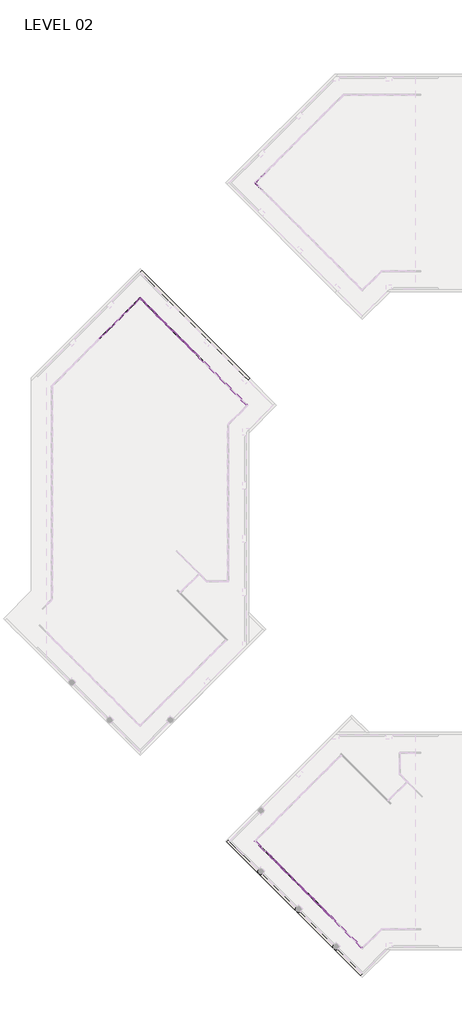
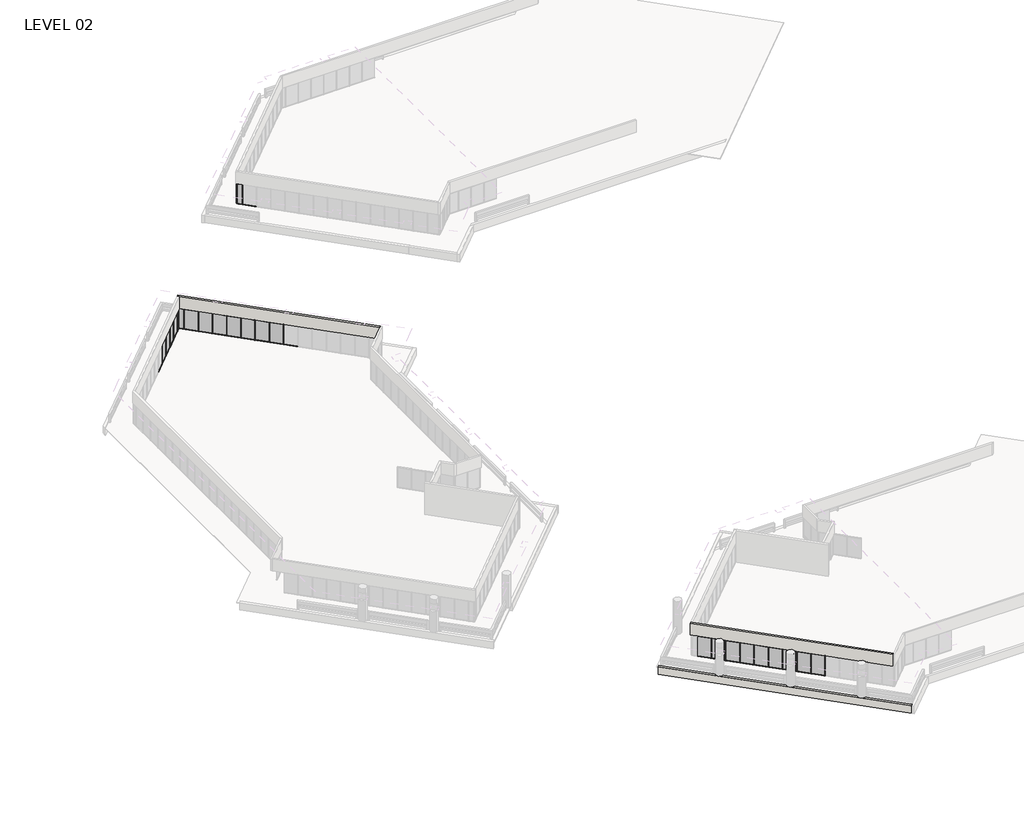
# One storey, part 6 of 19: 81 members, 24 plates, 4 walls.
"""IFC4 building model written with IfcOpenShell, lengths in millimetres."""

from ifc_helpers import new_model, si_unit, frame, origin, place, context, project, spatial, polyline, outline, extrude, faceted_brep, transform, mapped, element, save
from components import member_5247f267, member_79e7b9d8, member_b8d22739, member_e44af9ab, member_800970d4, member_c23f844a, member_57f2eb73, plate_67294edd, plate_46a4c48d, plate_4e8ae714, plate_50b9cd61, plate_048e4634, plate_87d7c655

model = new_model("IFC4")

# Units and contexts
model_context = context("Model", 3, world=origin())
ifc_project = project(units=[si_unit("LENGTHUNIT", "METRE", prefix="MILLI")], contexts=[model_context])

# Site, building, storey
site = spatial("IfcSite", under=ifc_project)
building = spatial("IfcBuilding", under=site)
storey = spatial("IfcBuildingStorey", under=building, Name="LEVEL 02", Elevation=4140.2)

# Members
placement = place(None, origin())
member_shape = member_5247f267(model_context)
element("IfcMember", 1, ObjectType="Rectangular Mullion : 2\" x 4.5\" rectangular", at=placement, inside=storey, context=model_context, shape_type="MappedRepresentation", body=[
    mapped(member_shape, transform((7201.9867365, 2545.9406331, 4140.2), x_axis=(0.0, 0.0, -1.0), y_axis=(0.7071067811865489, 0.7071067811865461, 0.0), z_axis=(0.7071067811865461, -0.7071067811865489, 0.0))),
])
element("IfcMember", 2, ObjectType="Rectangular Mullion : 2\" x 4.5\" rectangular", at=placement, inside=storey, context=model_context, shape_type="MappedRepresentation", body=[
    mapped(member_shape, transform((1814.0117365, 7933.9156331, 4140.2), x_axis=(0.0, 0.0, -1.0), y_axis=(0.7071067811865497, 0.7071067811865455, 0.0), z_axis=(0.7071067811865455, -0.7071067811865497, 0.0))),
])
element("IfcMember", 3, ObjectType="Rectangular Mullion : 2\" x 4.5\" rectangular", at=placement, inside=storey, context=model_context, shape_type="MappedRepresentation", body=[
    mapped(member_shape, transform((2891.6067365, 6856.3206331, 4140.2), x_axis=(0.0, 0.0, -1.0), y_axis=(0.707106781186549, 0.7071067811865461, 0.0), z_axis=(0.7071067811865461, -0.707106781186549, 0.0))),
])
element("IfcMember", 4, ObjectType="Rectangular Mullion : 2\" x 4.5\" rectangular", at=placement, inside=storey, context=model_context, shape_type="MappedRepresentation", body=[
    mapped(member_shape, transform((3969.2017365, 5778.7256331, 4140.2), x_axis=(0.0, 0.0, -1.0), y_axis=(0.7071067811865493, 0.7071067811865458, 0.0), z_axis=(0.7071067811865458, -0.7071067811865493, 0.0))),
])
element("IfcMember", 5, ObjectType="Rectangular Mullion : 2\" x 4.5\" rectangular", at=placement, inside=storey, context=model_context, shape_type="MappedRepresentation", body=[
    mapped(member_shape, transform((5046.7967365, 4701.1306331, 4140.2), x_axis=(0.0, 0.0, -1.0), y_axis=(0.707106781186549, 0.7071067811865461, 0.0), z_axis=(0.7071067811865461, -0.707106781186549, 0.0))),
])
element("IfcMember", 6, ObjectType="Rectangular Mullion : 2\" x 4.5\" rectangular", at=placement, inside=storey, context=model_context, shape_type="MappedRepresentation", body=[
    mapped(member_shape, transform((6124.3917365, 3623.5356331, 4140.2), x_axis=(0.0, 0.0, -1.0), y_axis=(0.7071067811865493, 0.7071067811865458, 0.0), z_axis=(0.7071067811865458, -0.7071067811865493, 0.0))),
])
element("IfcMember", 7, ObjectType="Rectangular Mullion : 2\" x 4.5\" rectangular", at=placement, inside=storey, context=model_context, shape_type="MappedRepresentation", body=[
    mapped(member_shape, transform((736.3810019, 9011.5463676, 4140.2), x_axis=(0.0, 0.0, -1.0), y_axis=(0.7071067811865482, 0.7071067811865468, 0.0), z_axis=(0.7071067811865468, -0.7071067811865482, 0.0))),
])
element("IfcMember", 8, ObjectType="Rectangular Mullion : 2\" x 4.5\" rectangular", at=placement, inside=storey, context=model_context, shape_type="MappedRepresentation", body=[
    mapped(member_shape, transform((-305.3287081, 104101.0755104, 4140.2), x_axis=(0.0, 0.0, -1.0), y_axis=(-0.7071067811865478, -0.7071067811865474, 0.0), z_axis=(-0.7071067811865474, 0.7071067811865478, 0.0))),
])
element("IfcMember", 9, ObjectType="Rectangular Mullion : 2\" x 4.5\" rectangular", at=placement, inside=storey, context=model_context, shape_type="MappedRepresentation", body=[
    mapped(member_shape, transform((1849.9327609, 7897.9946086, 6731.0), x_axis=(0.0, 0.0, 1.0), y_axis=(0.707106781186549, 0.7071067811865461, 0.0), z_axis=(-0.7071067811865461, 0.707106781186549, 0.0))),
])
element("IfcMember", 10, ObjectType="Rectangular Mullion : 2\" x 4.5\" rectangular", at=placement, inside=storey, context=model_context, shape_type="MappedRepresentation", body=[
    mapped(member_shape, transform((2927.5277609, 6820.3996086, 6731.0), x_axis=(0.0, 0.0, 1.0), y_axis=(0.7071067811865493, 0.7071067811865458, 0.0), z_axis=(-0.7071067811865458, 0.7071067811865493, 0.0))),
])
element("IfcMember", 11, ObjectType="Rectangular Mullion : 2\" x 4.5\" rectangular", at=placement, inside=storey, context=model_context, shape_type="MappedRepresentation", body=[
    mapped(member_shape, transform((4005.1227609, 5742.8046086, 6731.0), x_axis=(0.0, 0.0, 1.0), y_axis=(0.707106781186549, 0.7071067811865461, 0.0), z_axis=(-0.7071067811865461, 0.707106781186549, 0.0))),
])
element("IfcMember", 12, ObjectType="Rectangular Mullion : 2\" x 4.5\" rectangular", at=placement, inside=storey, context=model_context, shape_type="MappedRepresentation", body=[
    mapped(member_shape, transform((5082.7177609, 4665.2096086, 6731.0), x_axis=(0.0, 0.0, 1.0), y_axis=(0.7071067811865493, 0.7071067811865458, 0.0), z_axis=(-0.7071067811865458, 0.7071067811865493, 0.0))),
])
element("IfcMember", 13, ObjectType="Rectangular Mullion : 2\" x 4.5\" rectangular", at=placement, inside=storey, context=model_context, shape_type="MappedRepresentation", body=[
    mapped(member_shape, transform((6160.3127609, 3587.6146086, 6731.0), x_axis=(0.0, 0.0, 1.0), y_axis=(0.7071067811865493, 0.7071067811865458, 0.0), z_axis=(-0.7071067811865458, 0.7071067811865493, 0.0))),
])
element("IfcMember", 14, ObjectType="Rectangular Mullion : 2\" x 4.5\" rectangular", at=placement, inside=storey, context=model_context, shape_type="MappedRepresentation", body=[
    mapped(member_shape, transform((772.3020264, 8975.6253431, 6731.0), x_axis=(0.0, 0.0, 1.0), y_axis=(0.707106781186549, 0.7071067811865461, 0.0), z_axis=(-0.7071067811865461, 0.707106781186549, 0.0))),
])
element("IfcMember", 15, ObjectType="Rectangular Mullion : 2\" x 4.5\" rectangular", at=placement, inside=storey, context=model_context, shape_type="MappedRepresentation", body=[
    mapped(member_shape, transform((-305.5073808, 104982.5004268, 6731.0), x_axis=(0.0, 0.0, 1.0), y_axis=(-0.707106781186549, 0.7071067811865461, 0.0), z_axis=(-0.7071067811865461, -0.707106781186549, 0.0))),
])
member_2_shape = member_79e7b9d8(model_context)
element("IfcMember", 16, ObjectType="Rectangular Mullion : 2\" x 4.5\" rectangular", at=placement, inside=storey, context=model_context, shape_type="MappedRepresentation", body=[
    mapped(member_2_shape, transform((-710.2094781, 104577.7983294, 6731.0), x_axis=(0.0, 0.0, 1.0), y_axis=(-0.7071067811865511, 0.7071067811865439, 0.0), z_axis=(-0.7071067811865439, -0.7071067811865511, 0.0))),
])
element("IfcMember", 17, ObjectType="Rectangular Mullion : 2\" x 4.5\" rectangular", at=placement, inside=storey, context=model_context, shape_type="MappedRepresentation", body=[
    mapped(member_2_shape, transform((-341.4284052, 104946.5794023, 4140.2), x_axis=(0.0, 0.0, -1.0), y_axis=(-0.7071067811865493, 0.7071067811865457, 0.0), z_axis=(0.7071067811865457, 0.7071067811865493, 0.0))),
])
member_3_shape = member_b8d22739(model_context)
element("IfcMember", 18, ObjectType="Rectangular Mullion : 2\" x 4.5\" rectangular", at=placement, inside=storey, context=model_context, shape_type="MappedRepresentation", body=[
    mapped(member_3_shape, transform((-710.2094781, 104505.9562804, 4140.2), x_axis=(0.0, 0.0, -1.0), y_axis=(-0.7071067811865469, -0.7071067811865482, 0.0), z_axis=(-0.7071067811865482, 0.7071067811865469, 0.0))),
])
element("IfcMember", 19, ObjectType="Rectangular Mullion : 2\" x 4.5\" rectangular", at=placement, inside=storey, context=model_context, shape_type="MappedRepresentation", body=[
    mapped(member_3_shape, transform((-341.2497326, 104136.9965349, 6731.0), x_axis=(0.0, 0.0, 1.0), y_axis=(-0.7071067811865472, -0.7071067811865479, 0.0), z_axis=(0.7071067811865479, -0.7071067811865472, 0.0))),
])
member_4_shape = member_e44af9ab(model_context)
element("IfcMember", 20, ObjectType="Rectangular Mullion : 2\" x 4.5\" rectangular", at=placement, inside=storey, context=model_context, shape_type="MappedRepresentation", body=[
    mapped(member_4_shape, transform((9363.2340683, 384.6933012, 4140.2), x_axis=(-0.7071067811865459, 0.7071067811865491, 0.0), y_axis=(0.7071067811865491, 0.7071067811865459, 0.0), z_axis=(0.0, 0.0, -1.0))),
])
element("IfcMember", 21, ObjectType="Rectangular Mullion : 2\" x 4.5\" rectangular", at=placement, inside=storey, context=model_context, shape_type="MappedRepresentation", body=[
    mapped(member_4_shape, transform((8291.5906585, 1456.336711, 4140.2), x_axis=(-0.7071067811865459, 0.7071067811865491, 0.0), y_axis=(0.7071067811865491, 0.7071067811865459, 0.0), z_axis=(0.0, 0.0, -1.0))),
])
element("IfcMember", 22, ObjectType="Rectangular Mullion : 2\" x 4.5\" rectangular", at=placement, inside=storey, context=model_context, shape_type="MappedRepresentation", body=[
    mapped(member_4_shape, transform((7219.9472487, 2527.9801208, 4140.2), x_axis=(-0.7071067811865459, 0.7071067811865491, 0.0), y_axis=(0.7071067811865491, 0.7071067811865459, 0.0), z_axis=(0.0, 0.0, -1.0))),
])
element("IfcMember", 23, ObjectType="Rectangular Mullion : 2\" x 4.5\" rectangular", at=placement, inside=storey, context=model_context, shape_type="MappedRepresentation", body=[
    mapped(member_4_shape, transform((1831.9722487, 7915.9551208, 4140.2), x_axis=(-0.7071067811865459, 0.7071067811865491, 0.0), y_axis=(0.7071067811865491, 0.7071067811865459, 0.0), z_axis=(0.0, 0.0, -1.0))),
])
element("IfcMember", 24, ObjectType="Rectangular Mullion : 2\" x 4.5\" rectangular", at=placement, inside=storey, context=model_context, shape_type="MappedRepresentation", body=[
    mapped(member_4_shape, transform((2909.5672487, 6838.3601208, 4140.2), x_axis=(-0.7071067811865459, 0.7071067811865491, 0.0), y_axis=(0.7071067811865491, 0.7071067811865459, 0.0), z_axis=(0.0, 0.0, -1.0))),
])
element("IfcMember", 25, ObjectType="Rectangular Mullion : 2\" x 4.5\" rectangular", at=placement, inside=storey, context=model_context, shape_type="MappedRepresentation", body=[
    mapped(member_4_shape, transform((3987.1622487, 5760.7651208, 4140.2), x_axis=(-0.7071067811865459, 0.7071067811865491, 0.0), y_axis=(0.7071067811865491, 0.7071067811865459, 0.0), z_axis=(0.0, 0.0, -1.0))),
])
element("IfcMember", 26, ObjectType="Rectangular Mullion : 2\" x 4.5\" rectangular", at=placement, inside=storey, context=model_context, shape_type="MappedRepresentation", body=[
    mapped(member_4_shape, transform((5064.7572487, 4683.1701208, 4140.2), x_axis=(-0.7071067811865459, 0.7071067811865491, 0.0), y_axis=(0.7071067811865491, 0.7071067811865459, 0.0), z_axis=(0.0, 0.0, -1.0))),
])
element("IfcMember", 27, ObjectType="Rectangular Mullion : 2\" x 4.5\" rectangular", at=placement, inside=storey, context=model_context, shape_type="MappedRepresentation", body=[
    mapped(member_4_shape, transform((6142.3522487, 3605.5751208, 4140.2), x_axis=(-0.7071067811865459, 0.7071067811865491, 0.0), y_axis=(0.7071067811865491, 0.7071067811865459, 0.0), z_axis=(0.0, 0.0, -1.0))),
])
element("IfcMember", 28, ObjectType="Rectangular Mullion : 2\" x 4.5\" rectangular", at=placement, inside=storey, context=model_context, shape_type="MappedRepresentation", body=[
    mapped(member_4_shape, transform((754.3415142, 8993.5858553, 4140.2), x_axis=(-0.7071067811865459, 0.7071067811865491, 0.0), y_axis=(0.7071067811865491, 0.7071067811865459, 0.0), z_axis=(0.0, 0.0, -1.0))),
])
element("IfcMember", 29, ObjectType="Rectangular Mullion : 2\" x 4.5\" rectangular", at=placement, inside=storey, context=model_context, shape_type="MappedRepresentation", body=[
    mapped(member_4_shape, transform((-323.2892204, 104119.0360227, 4140.2), x_axis=(0.7071067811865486, -0.7071067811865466, 0.0), y_axis=(-0.7071067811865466, -0.7071067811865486, 0.0), z_axis=(0.0, 0.0, -1.0))),
])
element("IfcMember", 30, ObjectType="Rectangular Mullion : 2\" x 4.5\" rectangular", at=placement, inside=storey, context=model_context, shape_type="MappedRepresentation", body=[
    mapped(member_4_shape, transform((-323.467893, 104964.5399145, 4140.2), x_axis=(-0.7071067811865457, -0.7071067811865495, 0.0), y_axis=(-0.7071067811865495, 0.7071067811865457, 0.0), z_axis=(0.0, 0.0, -1.0))),
])
member_5_shape = member_800970d4(model_context)
element("IfcMember", 31, ObjectType="Rectangular Mullion : 2\" x 4.5\" rectangular", at=placement, inside=storey, context=model_context, shape_type="MappedRepresentation", body=[
    mapped(member_5_shape, transform((-746.1305026, 104541.8773049, 4140.2), x_axis=(-0.7071067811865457, -0.7071067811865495, 0.0), y_axis=(-0.7071067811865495, 0.7071067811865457, 0.0), z_axis=(0.0, 0.0, -1.0))),
])
element("IfcMember", 32, ObjectType="Rectangular Mullion : 2\" x 4.5\" rectangular", at=placement, inside=storey, context=model_context, shape_type="MappedRepresentation", body=[
    mapped(member_5_shape, transform((-746.1305026, 104541.8773049, 6731.0), x_axis=(-0.7071067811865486, 0.7071067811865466, 0.0), y_axis=(-0.7071067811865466, -0.7071067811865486, 0.0), z_axis=(0.0, 0.0, 1.0))),
])
member_6_shape = member_c23f844a(model_context)
element("IfcMember", 33, ObjectType="Rectangular Mullion : 2\" x 4.5\" rectangular", at=placement, inside=storey, context=model_context, shape_type="MappedRepresentation", body=[
    mapped(member_6_shape, transform((9381.1945805, 366.732789, 6731.0), x_axis=(0.0, 0.0, 1.0), y_axis=(0.7071067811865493, 0.7071067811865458, 0.0), z_axis=(-0.7071067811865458, 0.7071067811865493, 0.0))),
])
element("IfcMember", 34, ObjectType="Rectangular Mullion : 2\" x 4.5\" rectangular", at=placement, inside=storey, context=model_context, shape_type="MappedRepresentation", body=[
    mapped(member_6_shape, transform((8309.5511707, 1438.3761988, 6731.0), x_axis=(0.0, 0.0, 1.0), y_axis=(0.7071067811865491, 0.7071067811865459, 0.0), z_axis=(-0.7071067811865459, 0.7071067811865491, 0.0))),
])
element("IfcMember", 35, ObjectType="Rectangular Mullion : 2\" x 4.5\" rectangular", at=placement, inside=storey, context=model_context, shape_type="MappedRepresentation", body=[
    mapped(member_6_shape, transform((7237.9077609, 2510.0196086, 6731.0), x_axis=(0.0, 0.0, 1.0), y_axis=(0.7071067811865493, 0.7071067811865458, 0.0), z_axis=(-0.7071067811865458, 0.7071067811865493, 0.0))),
])
element("IfcMember", 36, ObjectType="Rectangular Mullion : 2\" x 4.5\" rectangular", at=placement, inside=storey, context=model_context, shape_type="MappedRepresentation", body=[
    mapped(member_6_shape, transform((9345.273556, 402.6538135, 4140.2), x_axis=(0.0, 0.0, -1.0), y_axis=(0.7071067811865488, 0.7071067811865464, 0.0), z_axis=(0.7071067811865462, -0.7071067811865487, 0.0))),
])
element("IfcMember", 37, ObjectType="Rectangular Mullion : 2\" x 4.5\" rectangular", at=placement, inside=storey, context=model_context, shape_type="MappedRepresentation", body=[
    mapped(member_6_shape, transform((8273.6301462, 1474.2972233, 4140.2), x_axis=(0.0, 0.0, -1.0), y_axis=(0.7071067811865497, 0.7071067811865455, 0.0), z_axis=(0.7071067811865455, -0.7071067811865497, 0.0))),
])
element("IfcMember", 38, ObjectType="Rectangular Mullion : 2\" x 4.5\" rectangular", at=placement, inside=storey, context=model_context, shape_type="MappedRepresentation", body=[
    mapped(member_shape, transform((-20871.4750418, 84416.5327657, 6731.0), x_axis=(0.0, 0.0, 1.0), y_axis=(0.7071067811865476, -0.7071067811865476, 0.0), z_axis=(0.7071067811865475, 0.7071067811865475, 0.0))),
])
element("IfcMember", 39, ObjectType="Rectangular Mullion : 2\" x 4.5\" rectangular", at=placement, inside=storey, context=model_context, shape_type="MappedRepresentation", body=[
    mapped(member_shape, transform((-19793.8443073, 85494.1635002, 6731.0), x_axis=(0.0, 0.0, 1.0), y_axis=(0.7071067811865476, -0.7071067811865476, 0.0), z_axis=(0.7071067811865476, 0.7071067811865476, 0.0))),
])
element("IfcMember", 40, ObjectType="Rectangular Mullion : 2\" x 4.5\" rectangular", at=placement, inside=storey, context=model_context, shape_type="MappedRepresentation", body=[
    mapped(member_shape, transform((-15715.4482119, 86607.5365866, 6731.0), x_axis=(0.0, 0.0, 1.0), y_axis=(-0.7071067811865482, -0.7071067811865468, 0.0), z_axis=(0.7071067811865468, -0.7071067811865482, 0.0))),
])
element("IfcMember", 41, ObjectType="Rectangular Mullion : 2\" x 4.5\" rectangular", at=placement, inside=storey, context=model_context, shape_type="MappedRepresentation", body=[
    mapped(member_shape, transform((-13560.1867428, 84452.2751175, 6731.0), x_axis=(0.0, 0.0, 1.0), y_axis=(-0.7071067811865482, -0.7071067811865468, 0.0), z_axis=(0.7071067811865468, -0.7071067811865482, 0.0))),
])
element("IfcMember", 42, ObjectType="Rectangular Mullion : 2\" x 4.5\" rectangular", at=placement, inside=storey, context=model_context, shape_type="MappedRepresentation", body=[
    mapped(member_shape, transform((-11404.9252738, 82297.0136485, 6731.0), x_axis=(0.0, 0.0, 1.0), y_axis=(-0.7071067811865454, -0.7071067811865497, 0.0), z_axis=(0.7071067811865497, -0.7071067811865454, 0.0))),
])
element("IfcMember", 43, ObjectType="Rectangular Mullion : 2\" x 4.5\" rectangular", at=placement, inside=storey, context=model_context, shape_type="MappedRepresentation", body=[
    mapped(member_shape, transform((-18716.2135728, 86571.7942348, 6731.0), x_axis=(0.0, 0.0, 1.0), y_axis=(0.7071067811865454, -0.7071067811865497, 0.0), z_axis=(0.7071067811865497, 0.7071067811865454, 0.0))),
])
element("IfcMember", 44, ObjectType="Rectangular Mullion : 2\" x 4.5\" rectangular", at=placement, inside=storey, context=model_context, shape_type="MappedRepresentation", body=[
    mapped(member_shape, transform((-21949.1057764, 83338.9020312, 6731.0), x_axis=(0.0, 0.0, 1.0), y_axis=(0.7071067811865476, -0.7071067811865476, 0.0), z_axis=(0.7071067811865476, 0.7071067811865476, 0.0))),
])
element("IfcMember", 45, ObjectType="Rectangular Mullion : 2\" x 4.5\" rectangular", at=placement, inside=storey, context=model_context, shape_type="MappedRepresentation", body=[
    mapped(member_shape, transform((-17638.5828382, 87649.4249693, 6731.0), x_axis=(0.0, 0.0, 1.0), y_axis=(0.7071067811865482, -0.7071067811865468, 0.0), z_axis=(0.7071067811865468, 0.7071067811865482, 0.0))),
])
element("IfcMember", 46, ObjectType="Rectangular Mullion : 2\" x 4.5\" rectangular", at=placement, inside=storey, context=model_context, shape_type="MappedRepresentation", body=[
    mapped(member_shape, transform((-14637.8174773, 85529.9058521, 6731.0), x_axis=(0.0, 0.0, 1.0), y_axis=(-0.7071067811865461, -0.707106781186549, 0.0), z_axis=(0.707106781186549, -0.7071067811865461, 0.0))),
])
element("IfcMember", 47, ObjectType="Rectangular Mullion : 2\" x 4.5\" rectangular", at=placement, inside=storey, context=model_context, shape_type="MappedRepresentation", body=[
    mapped(member_shape, transform((-12482.5560083, 83374.644383, 6731.0), x_axis=(0.0, 0.0, 1.0), y_axis=(-0.7071067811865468, -0.7071067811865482, 0.0), z_axis=(0.7071067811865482, -0.7071067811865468, 0.0))),
])
element("IfcMember", 48, ObjectType="Rectangular Mullion : 2\" x 4.5\" rectangular", at=placement, inside=storey, context=model_context, shape_type="MappedRepresentation", body=[
    mapped(member_shape, transform((-10327.2945392, 81219.382914, 6731.0), x_axis=(0.0, 0.0, 1.0), y_axis=(-0.7071067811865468, -0.7071067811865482, 0.0), z_axis=(0.7071067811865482, -0.7071067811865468, 0.0))),
])
element("IfcMember", 49, ObjectType="Rectangular Mullion : 2\" x 4.5\" rectangular", at=placement, inside=storey, context=model_context, shape_type="MappedRepresentation", body=[
    mapped(member_shape, transform((-22990.8154864, 82297.1923211, 4140.2), x_axis=(0.0, 0.0, -1.0), y_axis=(0.7071067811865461, -0.707106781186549, 0.0), z_axis=(-0.707106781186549, -0.7071067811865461, 0.0))),
])
element("IfcMember", 50, ObjectType="Rectangular Mullion : 2\" x 4.5\" rectangular", at=placement, inside=storey, context=model_context, shape_type="MappedRepresentation", body=[
    mapped(member_shape, transform((-20835.5540173, 84452.4537902, 4140.2), x_axis=(0.0, 0.0, -1.0), y_axis=(0.7071067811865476, -0.7071067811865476, 0.0), z_axis=(-0.7071067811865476, -0.7071067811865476, 0.0))),
])
element("IfcMember", 51, ObjectType="Rectangular Mullion : 2\" x 4.5\" rectangular", at=placement, inside=storey, context=model_context, shape_type="MappedRepresentation", body=[
    mapped(member_shape, transform((-19757.9232828, 85530.0845247, 4140.2), x_axis=(0.0, 0.0, -1.0), y_axis=(0.7071067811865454, -0.7071067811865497, 0.0), z_axis=(-0.7071067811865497, -0.7071067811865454, 0.0))),
])
element("IfcMember", 52, ObjectType="Rectangular Mullion : 2\" x 4.5\" rectangular", at=placement, inside=storey, context=model_context, shape_type="MappedRepresentation", body=[
    mapped(member_shape, transform((-15679.5271874, 86571.6155621, 4140.2), x_axis=(0.0, 0.0, -1.0), y_axis=(-0.7071067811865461, -0.707106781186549, 0.0), z_axis=(-0.707106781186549, 0.7071067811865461, 0.0))),
])
element("IfcMember", 53, ObjectType="Rectangular Mullion : 2\" x 4.5\" rectangular", at=placement, inside=storey, context=model_context, shape_type="MappedRepresentation", body=[
    mapped(member_shape, transform((-13524.2657183, 84416.3540931, 4140.2), x_axis=(0.0, 0.0, -1.0), y_axis=(-0.7071067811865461, -0.707106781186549, 0.0), z_axis=(-0.707106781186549, 0.7071067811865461, 0.0))),
])
element("IfcMember", 54, ObjectType="Rectangular Mullion : 2\" x 4.5\" rectangular", at=placement, inside=storey, context=model_context, shape_type="MappedRepresentation", body=[
    mapped(member_shape, transform((-11369.0042493, 82261.092624, 4140.2), x_axis=(0.0, 0.0, -1.0), y_axis=(-0.7071067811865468, -0.7071067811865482, 0.0), z_axis=(-0.7071067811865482, 0.7071067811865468, 0.0))),
])
element("IfcMember", 55, ObjectType="Rectangular Mullion : 2\" x 4.5\" rectangular", at=placement, inside=storey, context=model_context, shape_type="MappedRepresentation", body=[
    mapped(member_shape, transform((-9214.1001255, 80106.1885002, 4140.2), x_axis=(0.0, 0.0, -1.0), y_axis=(-0.7071067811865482, -0.7071067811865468, 0.0), z_axis=(-0.7071067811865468, 0.7071067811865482, 0.0))),
])
element("IfcMember", 56, ObjectType="Rectangular Mullion : 2\" x 4.5\" rectangular", at=placement, inside=storey, context=model_context, shape_type="MappedRepresentation", body=[
    mapped(member_shape, transform((-18680.2925483, 86607.7152592, 4140.2), x_axis=(0.0, 0.0, -1.0), y_axis=(0.7071067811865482, -0.7071067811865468, 0.0), z_axis=(-0.7071067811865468, -0.7071067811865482, 0.0))),
])
element("IfcMember", 57, ObjectType="Rectangular Mullion : 2\" x 4.5\" rectangular", at=placement, inside=storey, context=model_context, shape_type="MappedRepresentation", body=[
    mapped(member_shape, transform((-16757.1579219, 87649.2462966, 4140.2), x_axis=(0.0, 0.0, -1.0), y_axis=(-0.7071067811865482, -0.7071067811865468, 0.0), z_axis=(-0.7071067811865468, 0.7071067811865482, 0.0))),
])
element("IfcMember", 58, ObjectType="Rectangular Mullion : 2\" x 4.5\" rectangular", at=placement, inside=storey, context=model_context, shape_type="MappedRepresentation", body=[
    mapped(member_shape, transform((-21913.1847519, 83374.8230556, 4140.2), x_axis=(0.0, 0.0, -1.0), y_axis=(0.7071067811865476, -0.7071067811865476, 0.0), z_axis=(-0.7071067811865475, -0.7071067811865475, 0.0))),
])
element("IfcMember", 59, ObjectType="Rectangular Mullion : 2\" x 4.5\" rectangular", at=placement, inside=storey, context=model_context, shape_type="MappedRepresentation", body=[
    mapped(member_shape, transform((-14601.8964529, 85493.9848276, 4140.2), x_axis=(0.0, 0.0, -1.0), y_axis=(-0.7071067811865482, -0.7071067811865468, 0.0), z_axis=(-0.7071067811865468, 0.7071067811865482, 0.0))),
])
element("IfcMember", 60, ObjectType="Rectangular Mullion : 2\" x 4.5\" rectangular", at=placement, inside=storey, context=model_context, shape_type="MappedRepresentation", body=[
    mapped(member_shape, transform((-12446.6349838, 83338.7233585, 4140.2), x_axis=(0.0, 0.0, -1.0), y_axis=(-0.7071067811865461, -0.707106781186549, 0.0), z_axis=(-0.707106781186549, 0.7071067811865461, 0.0))),
])
element("IfcMember", 61, ObjectType="Rectangular Mullion : 2\" x 4.5\" rectangular", at=placement, inside=storey, context=model_context, shape_type="MappedRepresentation", body=[
    mapped(member_4_shape, transform((-20853.5145296, 84434.4932779, 4140.2), x_axis=(0.7071067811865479, 0.7071067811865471, 0.0), y_axis=(0.7071067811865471, -0.7071067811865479, 0.0), z_axis=(0.0, 0.0, -1.0))),
])
element("IfcMember", 62, ObjectType="Rectangular Mullion : 2\" x 4.5\" rectangular", at=placement, inside=storey, context=model_context, shape_type="MappedRepresentation", body=[
    mapped(member_4_shape, transform((-19775.8837951, 85512.1240125, 4140.2), x_axis=(0.7071067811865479, 0.7071067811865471, 0.0), y_axis=(0.7071067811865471, -0.7071067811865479, 0.0), z_axis=(0.0, 0.0, -1.0))),
])
element("IfcMember", 63, ObjectType="Rectangular Mullion : 2\" x 4.5\" rectangular", at=placement, inside=storey, context=model_context, shape_type="MappedRepresentation", body=[
    mapped(member_4_shape, transform((-15697.4876996, 86589.5760744, 4140.2), x_axis=(0.707106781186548, -0.707106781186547, 0.0), y_axis=(-0.707106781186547, -0.707106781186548, 0.0), z_axis=(0.0, 0.0, -1.0))),
])
element("IfcMember", 64, ObjectType="Rectangular Mullion : 2\" x 4.5\" rectangular", at=placement, inside=storey, context=model_context, shape_type="MappedRepresentation", body=[
    mapped(member_4_shape, transform((-13542.2262306, 84434.3146053, 4140.2), x_axis=(0.707106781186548, -0.707106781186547, 0.0), y_axis=(-0.707106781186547, -0.707106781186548, 0.0), z_axis=(0.0, 0.0, -1.0))),
])
element("IfcMember", 65, ObjectType="Rectangular Mullion : 2\" x 4.5\" rectangular", at=placement, inside=storey, context=model_context, shape_type="MappedRepresentation", body=[
    mapped(member_4_shape, transform((-11386.9647615, 82279.0531362, 4140.2), x_axis=(0.707106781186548, -0.707106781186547, 0.0), y_axis=(-0.707106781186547, -0.707106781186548, 0.0), z_axis=(0.0, 0.0, -1.0))),
])
element("IfcMember", 66, ObjectType="Rectangular Mullion : 2\" x 4.5\" rectangular", at=placement, inside=storey, context=model_context, shape_type="MappedRepresentation", body=[
    mapped(member_4_shape, transform((-9232.0606377, 80124.1490125, 4140.2), x_axis=(0.707106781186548, -0.707106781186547, 0.0), y_axis=(-0.707106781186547, -0.707106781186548, 0.0), z_axis=(0.0, 0.0, -1.0))),
])
element("IfcMember", 67, ObjectType="Rectangular Mullion : 2\" x 4.5\" rectangular", at=placement, inside=storey, context=model_context, shape_type="MappedRepresentation", body=[
    mapped(member_4_shape, transform((-18698.2530605, 86589.754747, 4140.2), x_axis=(0.7071067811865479, 0.7071067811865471, 0.0), y_axis=(0.7071067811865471, -0.7071067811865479, 0.0), z_axis=(0.0, 0.0, -1.0))),
])
element("IfcMember", 68, ObjectType="Rectangular Mullion : 2\" x 4.5\" rectangular", at=placement, inside=storey, context=model_context, shape_type="MappedRepresentation", body=[
    mapped(member_4_shape, transform((-16775.1184342, 87667.2068089, 4140.2), x_axis=(0.707106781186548, -0.707106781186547, 0.0), y_axis=(-0.707106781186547, -0.707106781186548, 0.0), z_axis=(0.0, 0.0, -1.0))),
])
element("IfcMember", 69, ObjectType="Rectangular Mullion : 2\" x 4.5\" rectangular", at=placement, inside=storey, context=model_context, shape_type="MappedRepresentation", body=[
    mapped(member_4_shape, transform((-21931.1452641, 83356.8625434, 4140.2), x_axis=(0.7071067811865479, 0.7071067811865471, 0.0), y_axis=(0.7071067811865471, -0.7071067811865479, 0.0), z_axis=(0.0, 0.0, -1.0))),
])
element("IfcMember", 70, ObjectType="Rectangular Mullion : 2\" x 4.5\" rectangular", at=placement, inside=storey, context=model_context, shape_type="MappedRepresentation", body=[
    mapped(member_4_shape, transform((-17620.622326, 87667.3854815, 4140.2), x_axis=(0.7071067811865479, 0.7071067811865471, 0.0), y_axis=(0.7071067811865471, -0.7071067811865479, 0.0), z_axis=(0.0, 0.0, -1.0))),
])
element("IfcMember", 71, ObjectType="Rectangular Mullion : 2\" x 4.5\" rectangular", at=placement, inside=storey, context=model_context, shape_type="MappedRepresentation", body=[
    mapped(member_4_shape, transform((-14619.8569651, 85511.9453398, 4140.2), x_axis=(0.707106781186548, -0.707106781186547, 0.0), y_axis=(-0.707106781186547, -0.707106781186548, 0.0), z_axis=(0.0, 0.0, -1.0))),
])
element("IfcMember", 72, ObjectType="Rectangular Mullion : 2\" x 4.5\" rectangular", at=placement, inside=storey, context=model_context, shape_type="MappedRepresentation", body=[
    mapped(member_4_shape, transform((-12464.595496, 83356.6838708, 4140.2), x_axis=(0.707106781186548, -0.707106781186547, 0.0), y_axis=(-0.707106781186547, -0.707106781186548, 0.0), z_axis=(0.0, 0.0, -1.0))),
])
element("IfcMember", 73, ObjectType="Rectangular Mullion : 2\" x 4.5\" rectangular", at=placement, inside=storey, context=model_context, shape_type="MappedRepresentation", body=[
    mapped(member_4_shape, transform((-10309.334027, 81201.4224017, 4140.2), x_axis=(0.707106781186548, -0.707106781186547, 0.0), y_axis=(-0.707106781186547, -0.707106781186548, 0.0), z_axis=(0.0, 0.0, -1.0))),
])
element("IfcMember", 74, ObjectType="Rectangular Mullion : 2\" x 4.5\" rectangular", at=placement, inside=storey, context=model_context, shape_type="MappedRepresentation", body=[
    mapped(member_5_shape, transform((-17197.9597164, 88090.0480911, 4140.2), x_axis=(0.7071067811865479, 0.7071067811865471, 0.0), y_axis=(0.7071067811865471, -0.7071067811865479, 0.0), z_axis=(0.0, 0.0, -1.0))),
])
element("IfcMember", 75, ObjectType="Rectangular Mullion : 2\" x 4.5\" rectangular", at=placement, inside=storey, context=model_context, shape_type="MappedRepresentation", body=[
    mapped(member_5_shape, transform((-17197.9597164, 88090.0480911, 6731.0), x_axis=(-0.707106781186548, 0.707106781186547, 0.0), y_axis=(-0.707106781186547, -0.707106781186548, 0.0), z_axis=(0.0, 0.0, 1.0))),
])
element("IfcMember", 76, ObjectType="Rectangular Mullion : 2\" x 4.5\" rectangular", at=placement, inside=storey, context=model_context, shape_type="MappedRepresentation", body=[
    mapped(member_2_shape, transform((-17233.8807409, 88054.1270666, 6731.0), x_axis=(0.0, 0.0, 1.0), y_axis=(0.7071067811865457, -0.7071067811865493, 0.0), z_axis=(0.7071067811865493, 0.7071067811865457, 0.0))),
])
element("IfcMember", 77, ObjectType="Rectangular Mullion : 2\" x 4.5\" rectangular", at=placement, inside=storey, context=model_context, shape_type="MappedRepresentation", body=[
    mapped(member_2_shape, transform((-17602.6618138, 87685.3459938, 4140.2), x_axis=(0.0, 0.0, -1.0), y_axis=(0.7071067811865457, -0.7071067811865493, 0.0), z_axis=(-0.7071067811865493, -0.7071067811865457, 0.0))),
])
element("IfcMember", 78, ObjectType="Rectangular Mullion : 2\" x 4.5\" rectangular", at=placement, inside=storey, context=model_context, shape_type="MappedRepresentation", body=[
    mapped(member_3_shape, transform((-17162.0386919, 88054.1270666, 4140.2), x_axis=(0.0, 0.0, -1.0), y_axis=(-0.7071067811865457, -0.7071067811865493, 0.0), z_axis=(-0.7071067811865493, 0.7071067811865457, 0.0))),
])
element("IfcMember", 79, ObjectType="Rectangular Mullion : 2\" x 4.5\" rectangular", at=placement, inside=storey, context=model_context, shape_type="MappedRepresentation", body=[
    mapped(member_3_shape, transform((-16793.0789464, 87685.1673211, 6731.0), x_axis=(0.0, 0.0, 1.0), y_axis=(-0.7071067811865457, -0.7071067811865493, 0.0), z_axis=(0.7071067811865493, -0.7071067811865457, 0.0))),
])
member_7_shape = member_57f2eb73(model_context)
element("IfcMember", 80, ObjectType="Rectangular Mullion : 2\" x 4.5\" rectangular", at=placement, inside=storey, context=model_context, shape_type="MappedRepresentation", body=[
    mapped(member_7_shape, transform((-9250.02115, 80142.1095247, 6731.0), x_axis=(0.0, 0.0, 1.0), y_axis=(-0.7071067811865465, -0.7071067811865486, 0.0), z_axis=(0.7071067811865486, -0.7071067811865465, 0.0))),
])
element("IfcMember", 81, ObjectType="Rectangular Mullion : 2\" x 4.5\" rectangular", at=placement, inside=storey, context=model_context, shape_type="MappedRepresentation", body=[
    mapped(member_7_shape, transform((-10291.3735147, 81183.4618895, 4140.2), x_axis=(0.0, 0.0, -1.0), y_axis=(-0.7071067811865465, -0.7071067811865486, 0.0), z_axis=(-0.7071067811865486, 0.7071067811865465, 0.0))),
])

# Plates
plate_shape = plate_67294edd(model_context)
element("IfcPlate", 82, ObjectType="System Panel : 1/4\" Glass", at=placement, inside=storey, context=model_context, shape_type="MappedRepresentation", body=[
    mapped(plate_shape, transform((1293.1568814, 8454.7704881, 4191.0), x_axis=(-0.7071067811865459, 0.7071067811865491, 0.0), y_axis=(-0.7071067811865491, -0.7071067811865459, 0.0), z_axis=(0.0, 0.0, 1.0))),
])
element("IfcPlate", 83, ObjectType="System Panel : 1/4\" Glass", at=placement, inside=storey, context=model_context, shape_type="MappedRepresentation", body=[
    mapped(plate_shape, transform((215.5261469, 9532.4012226, 4191.0), x_axis=(-0.7071067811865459, 0.7071067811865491, 0.0), y_axis=(-0.7071067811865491, -0.7071067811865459, 0.0), z_axis=(0.0, 0.0, 1.0))),
])
plate_2_shape = plate_46a4c48d(model_context)
element("IfcPlate", 84, ObjectType="System Panel : 1/4\" Glass", at=placement, inside=storey, context=model_context, shape_type="MappedRepresentation", body=[
    mapped(plate_2_shape, transform((-525.8189417, 104762.1888658, 4191.0), x_axis=(-0.7071067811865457, -0.7071067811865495, 0.0), y_axis=(0.7071067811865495, -0.7071067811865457, 0.0), z_axis=(0.0, 0.0, 1.0))),
])
plate_3_shape = plate_4e8ae714(model_context)
element("IfcPlate", 85, ObjectType="System Panel : 1/4\" Glass", at=placement, inside=storey, context=model_context, shape_type="MappedRepresentation", body=[
    mapped(plate_3_shape, transform((-525.7296054, 104321.4764077, 4191.0), x_axis=(0.7071067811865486, -0.7071067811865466, 0.0), y_axis=(0.7071067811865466, 0.7071067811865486, 0.0), z_axis=(0.0, 0.0, 1.0))),
])
plate_4_shape = plate_50b9cd61(model_context)
element("IfcPlate", 86, ObjectType="System Panel : 1/4\" Glass", at=placement, inside=storey, context=model_context, shape_type="MappedRepresentation", body=[
    mapped(plate_4_shape, transform((8827.4123634, 920.5150061, 4191.0), x_axis=(-0.7071067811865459, 0.7071067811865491, 0.0), y_axis=(-0.7071067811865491, -0.7071067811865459, 0.0), z_axis=(0.0, 0.0, 1.0))),
])
element("IfcPlate", 87, ObjectType="System Panel : 1/4\" Glass", at=placement, inside=storey, context=model_context, shape_type="MappedRepresentation", body=[
    mapped(plate_4_shape, transform((7755.7689536, 1992.1584159, 4191.0), x_axis=(-0.7071067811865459, 0.7071067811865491, 0.0), y_axis=(-0.7071067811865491, -0.7071067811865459, 0.0), z_axis=(0.0, 0.0, 1.0))),
])
plate_5_shape = plate_048e4634(model_context)
element("IfcPlate", 88, ObjectType="System Panel : 1/4\" Glass", at=placement, inside=storey, context=model_context, shape_type="MappedRepresentation", body=[
    mapped(plate_5_shape, transform((6681.1497487, 3066.7776208, 4191.0), x_axis=(-0.7071067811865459, 0.7071067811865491, 0.0), y_axis=(-0.7071067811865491, -0.7071067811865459, 0.0), z_axis=(0.0, 0.0, 1.0))),
])
element("IfcPlate", 89, ObjectType="System Panel : 1/4\" Glass", at=placement, inside=storey, context=model_context, shape_type="MappedRepresentation", body=[
    mapped(plate_5_shape, transform((2370.7697487, 7377.1576208, 4191.0), x_axis=(-0.7071067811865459, 0.7071067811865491, 0.0), y_axis=(-0.7071067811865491, -0.7071067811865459, 0.0), z_axis=(0.0, 0.0, 1.0))),
])
element("IfcPlate", 90, ObjectType="System Panel : 1/4\" Glass", at=placement, inside=storey, context=model_context, shape_type="MappedRepresentation", body=[
    mapped(plate_5_shape, transform((3448.3647487, 6299.5626208, 4191.0), x_axis=(-0.7071067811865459, 0.7071067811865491, 0.0), y_axis=(-0.7071067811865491, -0.7071067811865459, 0.0), z_axis=(0.0, 0.0, 1.0))),
])
element("IfcPlate", 91, ObjectType="System Panel : 1/4\" Glass", at=placement, inside=storey, context=model_context, shape_type="MappedRepresentation", body=[
    mapped(plate_5_shape, transform((4525.9597487, 5221.9676208, 4191.0), x_axis=(-0.7071067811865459, 0.7071067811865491, 0.0), y_axis=(-0.7071067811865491, -0.7071067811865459, 0.0), z_axis=(0.0, 0.0, 1.0))),
])
element("IfcPlate", 92, ObjectType="System Panel : 1/4\" Glass", at=placement, inside=storey, context=model_context, shape_type="MappedRepresentation", body=[
    mapped(plate_5_shape, transform((5603.5547487, 4144.3726208, 4191.0), x_axis=(-0.7071067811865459, 0.7071067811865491, 0.0), y_axis=(-0.7071067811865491, -0.7071067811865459, 0.0), z_axis=(0.0, 0.0, 1.0))),
])
element("IfcPlate", 93, ObjectType="System Panel : 1/4\" Glass", at=placement, inside=storey, context=model_context, shape_type="MappedRepresentation", body=[
    mapped(plate_shape, transform((-20314.6991623, 84973.3086452, 4191.0), x_axis=(0.7071067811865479, 0.7071067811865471, 0.0), y_axis=(-0.7071067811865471, 0.7071067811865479, 0.0), z_axis=(0.0, 0.0, 1.0))),
])
element("IfcPlate", 94, ObjectType="System Panel : 1/4\" Glass", at=placement, inside=storey, context=model_context, shape_type="MappedRepresentation", body=[
    mapped(plate_shape, transform((-19237.0684278, 86050.9393797, 4191.0), x_axis=(0.7071067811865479, 0.7071067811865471, 0.0), y_axis=(-0.7071067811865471, 0.7071067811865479, 0.0), z_axis=(0.0, 0.0, 1.0))),
])
element("IfcPlate", 95, ObjectType="System Panel : 1/4\" Glass", at=placement, inside=storey, context=model_context, shape_type="MappedRepresentation", body=[
    mapped(plate_shape, transform((-15158.6723324, 86050.7607071, 4191.0), x_axis=(0.707106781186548, -0.707106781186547, 0.0), y_axis=(0.707106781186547, 0.707106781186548, 0.0), z_axis=(0.0, 0.0, 1.0))),
])
element("IfcPlate", 96, ObjectType="System Panel : 1/4\" Glass", at=placement, inside=storey, context=model_context, shape_type="MappedRepresentation", body=[
    mapped(plate_shape, transform((-13003.4108633, 83895.499238, 4191.0), x_axis=(0.707106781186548, -0.707106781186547, 0.0), y_axis=(0.707106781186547, 0.707106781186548, 0.0), z_axis=(0.0, 0.0, 1.0))),
])
element("IfcPlate", 97, ObjectType="System Panel : 1/4\" Glass", at=placement, inside=storey, context=model_context, shape_type="MappedRepresentation", body=[
    mapped(plate_shape, transform((-10848.1493943, 81740.237769, 4191.0), x_axis=(0.707106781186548, -0.707106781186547, 0.0), y_axis=(0.707106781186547, 0.707106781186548, 0.0), z_axis=(0.0, 0.0, 1.0))),
])
element("IfcPlate", 98, ObjectType="System Panel : 1/4\" Glass", at=placement, inside=storey, context=model_context, shape_type="MappedRepresentation", body=[
    mapped(plate_shape, transform((-18159.4376933, 87128.5701143, 4191.0), x_axis=(0.7071067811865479, 0.7071067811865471, 0.0), y_axis=(-0.7071067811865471, 0.7071067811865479, 0.0), z_axis=(0.0, 0.0, 1.0))),
])
element("IfcPlate", 99, ObjectType="System Panel : 1/4\" Glass", at=placement, inside=storey, context=model_context, shape_type="MappedRepresentation", body=[
    mapped(plate_shape, transform((-16236.3030669, 87128.3914416, 4191.0), x_axis=(0.707106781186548, -0.707106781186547, 0.0), y_axis=(0.707106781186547, 0.707106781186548, 0.0), z_axis=(0.0, 0.0, 1.0))),
])
element("IfcPlate", 100, ObjectType="System Panel : 1/4\" Glass", at=placement, inside=storey, context=model_context, shape_type="MappedRepresentation", body=[
    mapped(plate_shape, transform((-21392.3298969, 83895.6779107, 4191.0), x_axis=(0.7071067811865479, 0.7071067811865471, 0.0), y_axis=(-0.7071067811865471, 0.7071067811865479, 0.0), z_axis=(0.0, 0.0, 1.0))),
])
element("IfcPlate", 101, ObjectType="System Panel : 1/4\" Glass", at=placement, inside=storey, context=model_context, shape_type="MappedRepresentation", body=[
    mapped(plate_shape, transform((-14081.0415978, 84973.1299726, 4191.0), x_axis=(0.707106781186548, -0.707106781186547, 0.0), y_axis=(0.707106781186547, 0.707106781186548, 0.0), z_axis=(0.0, 0.0, 1.0))),
])
element("IfcPlate", 102, ObjectType="System Panel : 1/4\" Glass", at=placement, inside=storey, context=model_context, shape_type="MappedRepresentation", body=[
    mapped(plate_shape, transform((-11925.7801288, 82817.8685035, 4191.0), x_axis=(0.707106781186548, -0.707106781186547, 0.0), y_axis=(0.707106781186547, 0.707106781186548, 0.0), z_axis=(0.0, 0.0, 1.0))),
])
element("IfcPlate", 103, ObjectType="System Panel : 1/4\" Glass", at=placement, inside=storey, context=model_context, shape_type="MappedRepresentation", body=[
    mapped(plate_3_shape, transform((-16977.5588192, 87869.6471939, 4191.0), x_axis=(0.707106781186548, -0.707106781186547, 0.0), y_axis=(0.707106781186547, 0.707106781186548, 0.0), z_axis=(0.0, 0.0, 1.0))),
])
element("IfcPlate", 104, ObjectType="System Panel : 1/4\" Glass", at=placement, inside=storey, context=model_context, shape_type="MappedRepresentation", body=[
    mapped(plate_2_shape, transform((-17418.2712773, 87869.7365302, 4191.0), x_axis=(0.7071067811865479, 0.7071067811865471, 0.0), y_axis=(-0.7071067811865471, 0.7071067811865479, 0.0), z_axis=(0.0, 0.0, 1.0))),
])
plate_6_shape = plate_87d7c655(model_context)
element("IfcPlate", 105, ObjectType="System Panel : 1/4\" Glass", at=placement, inside=storey, context=model_context, shape_type="MappedRepresentation", body=[
    mapped(plate_6_shape, transform((-9770.6973324, 80662.7857071, 4191.0), x_axis=(0.707106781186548, -0.707106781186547, 0.0), y_axis=(0.707106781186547, 0.707106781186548, 0.0), z_axis=(0.0, 0.0, 1.0))),
])

# Walls
element("IfcWall", 106, ObjectType="01-CONCRETE-12", at=placement, inside=storey, context=model_context, shape_type="SweptSolid", body=[
    extrude(outline(polyline([(-4589.6801224, 10601.8209456), (14585.95, -8573.8091769), (14370.4238531, -8789.3353238), (-4805.2062693, 10386.2947987), (-4589.6801224, 10601.8209456)])), frame((0.0, 0.0, 3225.8), z_axis=(0.0, 0.0, 1.0), x_axis=(1.0, 0.0, 0.0)), (0.0, 0.0, 1.0), 914.4),
])
element("IfcWall", 107, ObjectType="01-CONCRETE-12", at=placement, inside=storey, context=model_context, shape_type="Brep", body=[
    faceted_brep([(-1544.9613981, 76603.888613, 3225.8), (-16982.4335695, 92041.3607844, 3225.8), (-16982.4335695, 92041.3607844, 4140.2), (-1544.9613981, 76603.888613, 4140.2), (-1760.487545, 76388.3624661, 3225.8), (-1760.487545, 76388.3624661, 4140.2), (-2280.8136919, 76908.688613, 4140.2), (-7059.1886919, 81687.063613, 4140.2), (-7668.7886919, 82296.663613, 4140.2), (-12447.1636919, 87075.038613, 4140.2), (-13056.7636919, 87684.638613, 4140.2), (-17197.9597164, 91825.8346375, 4140.2), (-17197.9597164, 91825.8346375, 3225.8), (-13056.7636919, 87684.638613, 3225.8), (-12447.1636919, 87075.038613, 3225.8), (-7668.7886919, 82296.663613, 3225.8), (-7059.1886919, 81687.063613, 3225.8), (-2280.8136919, 76908.688613, 3225.8)], [[[0, 1, 2, 3]], [[4, 5, 6, 7, 8, 9, 10, 11, 12, 13, 14, 15, 16, 17]], [[1, 0, 4, 17, 16, 15, 14, 13, 12]], [[3, 2, 11, 10, 9, 8, 7, 6, 5]], [[0, 3, 5, 4]], [[2, 1, 12, 11]]]),
])
element("IfcWall", 108, ObjectType="8\" Existing Wall", at=placement, inside=storey, context=model_context, shape_type="Brep", body=[
    faceted_brep([(14585.95, -4694.3385325, 6731.0), (-602.4464047, 10494.0578721, 6731.0), (-746.1305026, 10637.7419701, 6731.0), (-746.1305026, 10637.7419701, 8229.6), (-602.4464047, 10494.0578721, 8229.6), (14585.95, -4694.3385325, 8229.6), (14442.2659021, -4838.0226305, 6731.0), (14442.2659021, -4838.0226305, 8229.6), (-889.8146005, 10494.0578721, 8229.6), (-889.8146005, 10494.0578721, 6731.0)], [[[0, 1, 2, 3, 4, 5]], [[6, 7, 8, 9]], [[2, 1, 0, 6, 9]], [[5, 4, 3, 8, 7]], [[0, 5, 7, 6]], [[3, 2, 9, 8]]]),
])
element("IfcWall", 109, ObjectType="8\" Existing Wall", at=placement, inside=storey, context=model_context, shape_type="Brep", body=[
    faceted_brep([(-1865.8792138, 72901.6516865, 6731.0), (-17197.9597164, 88233.7321891, 6731.0), (-17197.9597164, 88233.7321891, 8229.6), (-1865.8792138, 72901.6516865, 8229.6), (-2009.5633117, 72757.9675885, 6731.0), (-2009.5633117, 72757.9675885, 8229.6), (-17197.9597164, 87946.3639932, 8229.6), (-17341.6438143, 88090.0480911, 8229.6), (-17341.6438143, 88090.0480911, 6731.0), (-17197.9597164, 87946.3639932, 6731.0)], [[[0, 1, 2, 3]], [[4, 5, 6, 7, 8, 9]], [[1, 0, 4, 9, 8]], [[3, 2, 7, 6, 5]], [[0, 3, 5, 4]], [[2, 1, 8, 7]]]),
])

save(model, "model.ifc")
